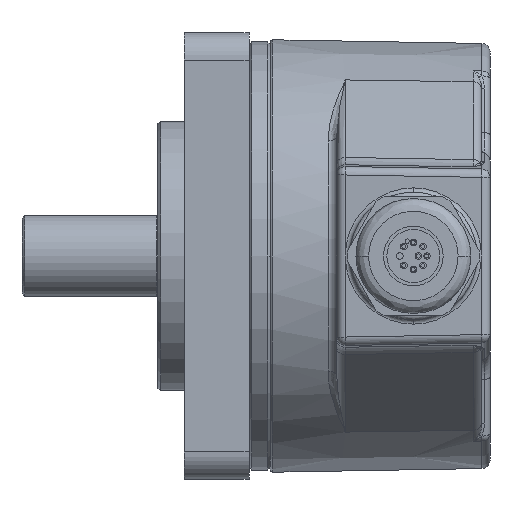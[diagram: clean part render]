
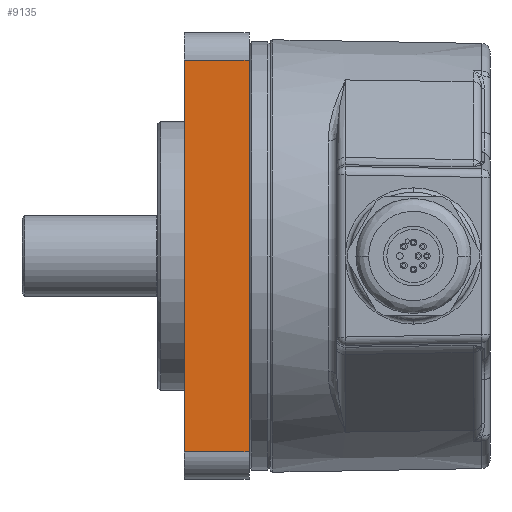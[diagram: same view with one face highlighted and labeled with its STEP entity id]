
A CAD part, front view. The second image highlights one B-rep face of the part: STEP entity #9135.
In plain terms, the highlighted planar face has unit normal (0, -1, 0).
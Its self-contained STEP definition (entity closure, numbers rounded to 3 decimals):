
#394 = DIRECTION ( 'NONE',  ( 1., 0., 0. ) ) ;
#934 = VERTEX_POINT ( 'NONE', #8297 ) ;
#1130 = VERTEX_POINT ( 'NONE', #10451 ) ;
#1504 = DIRECTION ( 'NONE',  ( 1., 0., 0. ) ) ;
#1617 = DIRECTION ( 'NONE',  ( 0., 0., 1. ) ) ;
#1691 = LINE ( 'NONE', #7245, #9519 ) ;
#2445 = CARTESIAN_POINT ( 'NONE',  ( 3.08, -26.194, 23.019 ) ) ;
#2538 = CARTESIAN_POINT ( 'NONE',  ( 10.7, -26.194, -23.019 ) ) ;
#2661 = VERTEX_POINT ( 'NONE', #2538 ) ;
#3113 = FACE_OUTER_BOUND ( 'NONE', #10761, .T. ) ;
#3585 = VECTOR ( 'NONE', #3707, 1000. ) ;
#3707 = DIRECTION ( 'NONE',  ( 0., 0., 1. ) ) ;
#3843 = VERTEX_POINT ( 'NONE', #12689 ) ;
#4215 = VECTOR ( 'NONE', #1617, 1000. ) ;
#4531 = CARTESIAN_POINT ( 'NONE',  ( 3.08, -26.194, 23.019 ) ) ;
#4805 = CARTESIAN_POINT ( 'NONE',  ( 3.08, -26.194, 23.019 ) ) ;
#5175 = DIRECTION ( 'NONE',  ( 1., 0., 0. ) ) ;
#5940 = LINE ( 'NONE', #4805, #3585 ) ;
#6039 = ORIENTED_EDGE ( 'NONE', *, *, #7454, .T. ) ;
#6497 = DIRECTION ( 'NONE',  ( 0., 1., 0. ) ) ;
#6675 = ORIENTED_EDGE ( 'NONE', *, *, #11952, .F. ) ;
#7011 = ORIENTED_EDGE ( 'NONE', *, *, #10152, .F. ) ;
#7245 = CARTESIAN_POINT ( 'NONE',  ( 3.08, -26.194, -23.019 ) ) ;
#7263 = LINE ( 'NONE', #7752, #4215 ) ;
#7454 = EDGE_CURVE ( 'NONE', #934, #2661, #1691, .T. ) ;
#7660 = ORIENTED_EDGE ( 'NONE', *, *, #10085, .T. ) ;
#7752 = CARTESIAN_POINT ( 'NONE',  ( 10.7, -26.194, 23.019 ) ) ;
#8297 = CARTESIAN_POINT ( 'NONE',  ( 3.08, -26.194, -23.019 ) ) ;
#9135 = ADVANCED_FACE ( 'NONE', ( #3113 ), #10448, .F. ) ;
#9519 = VECTOR ( 'NONE', #5175, 1000. ) ;
#9743 = VECTOR ( 'NONE', #1504, 1000. ) ;
#10085 = EDGE_CURVE ( 'NONE', #2661, #1130, #7263, .T. ) ;
#10152 = EDGE_CURVE ( 'NONE', #934, #3843, #5940, .T. ) ;
#10448 = PLANE ( 'NONE',  #11600 ) ;
#10451 = CARTESIAN_POINT ( 'NONE',  ( 10.7, -26.194, 23.019 ) ) ;
#10761 = EDGE_LOOP ( 'NONE', ( #7660, #6675, #7011, #6039 ) ) ;
#11600 = AXIS2_PLACEMENT_3D ( 'NONE', #2445, #6497, #394 ) ;
#11952 = EDGE_CURVE ( 'NONE', #3843, #1130, #12169, .T. ) ;
#12169 = LINE ( 'NONE', #4531, #9743 ) ;
#12689 = CARTESIAN_POINT ( 'NONE',  ( 3.08, -26.194, 23.019 ) ) ;
